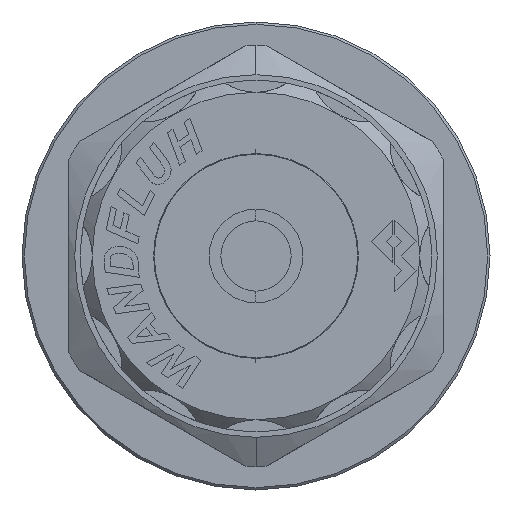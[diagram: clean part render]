
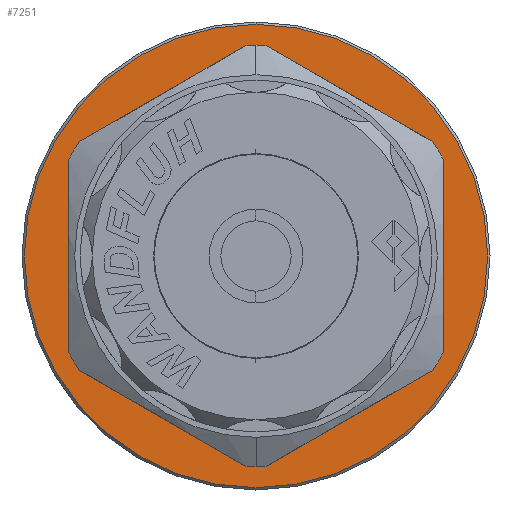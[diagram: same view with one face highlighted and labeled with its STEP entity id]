
A CAD part, left-side view. The second image highlights one B-rep face of the part: STEP entity #7251.
In plain terms, the highlighted planar face has unit normal (-1, 0, 0).
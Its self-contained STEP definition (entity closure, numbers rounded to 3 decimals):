
#110 = VERTEX_POINT ( 'NONE', #1419 ) ;
#158 = VERTEX_POINT ( 'NONE', #1416 ) ;
#275 = VERTEX_POINT ( 'NONE', #1459 ) ;
#446 = VERTEX_POINT ( 'NONE', #31677 ) ;
#448 = VERTEX_POINT ( 'NONE', #31662 ) ;
#547 = VERTEX_POINT ( 'NONE', #30345 ) ;
#1416 = CARTESIAN_POINT ( 'NONE',  ( -61.806, 4.657, 18. ) ) ;
#1419 = CARTESIAN_POINT ( 'NONE',  ( -61.806, 3.798, 17.98 ) ) ;
#1459 = CARTESIAN_POINT ( 'NONE',  ( -61.806, 4.657, -19.8 ) ) ;
#6202 = ORIENTED_EDGE ( 'NONE', *, *, #14597, .F. ) ;
#7251 = ADVANCED_FACE ( 'NONE', ( #17704, #17689 ), #25803, .F. ) ;
#7499 = VECTOR ( 'NONE', #13694, 1000. ) ;
#7500 = CIRCLE ( 'NONE', #19600, 18. ) ;
#7522 = LINE ( 'NONE', #12397, #7600 ) ;
#7552 = LINE ( 'NONE', #12812, #7556 ) ;
#7556 = VECTOR ( 'NONE', #12756, 1000. ) ;
#7570 = EDGE_CURVE ( 'NONE', #275, #547, #14774, .T. ) ;
#7578 = EDGE_CURVE ( 'NONE', #20245, #110, #14698, .T. ) ;
#7600 = VECTOR ( 'NONE', #13363, 1000. ) ;
#7608 = EDGE_CURVE ( 'NONE', #110, #158, #14743, .T. ) ;
#7632 = LINE ( 'NONE', #12357, #7499 ) ;
#9785 = VERTEX_POINT ( 'NONE', #17023 ) ;
#9932 = VERTEX_POINT ( 'NONE', #16973 ) ;
#9938 = VERTEX_POINT ( 'NONE', #16972 ) ;
#9974 = VERTEX_POINT ( 'NONE', #16979 ) ;
#10071 = VERTEX_POINT ( 'NONE', #16934 ) ;
#10116 = VERTEX_POINT ( 'NONE', #16938 ) ;
#10121 = VERTEX_POINT ( 'NONE', #16926 ) ;
#10200 = EDGE_CURVE ( 'NONE', #9974, #10116, #22279, .T. ) ;
#10203 = EDGE_CURVE ( 'NONE', #448, #446, #22203, .T. ) ;
#10222 = EDGE_CURVE ( 'NONE', #10071, #9974, #22178, .T. ) ;
#11580 = CARTESIAN_POINT ( 'NONE',  ( -61.806, 4.657, 0. ) ) ;
#11946 = DIRECTION ( 'NONE',  ( -1., 0., 0. ) ) ;
#12022 = DIRECTION ( 'NONE',  ( 0., 0., 1. ) ) ;
#12357 = CARTESIAN_POINT ( 'NONE',  ( -61.806, 4.657, 18.475 ) ) ;
#12397 = CARTESIAN_POINT ( 'NONE',  ( -61.806, 20.657, -9.238 ) ) ;
#12586 = DIRECTION ( 'NONE',  ( 0., 0., 1. ) ) ;
#12588 = DIRECTION ( 'NONE',  ( -1., 0., 0. ) ) ;
#12590 = CARTESIAN_POINT ( 'NONE',  ( -61.806, 4.657, 0. ) ) ;
#12662 = CARTESIAN_POINT ( 'NONE',  ( -61.806, 4.657, 0. ) ) ;
#12756 = DIRECTION ( 'NONE',  ( 0., 0., 1. ) ) ;
#12812 = CARTESIAN_POINT ( 'NONE',  ( -61.806, -11.343, -9.238 ) ) ;
#13363 = DIRECTION ( 'NONE',  ( 0., -0.866, -0.5 ) ) ;
#13374 = DIRECTION ( 'NONE',  ( 0., 0., 1. ) ) ;
#13596 = DIRECTION ( 'NONE',  ( -1., 0., 0. ) ) ;
#13694 = DIRECTION ( 'NONE',  ( 0., 0.866, -0.5 ) ) ;
#14471 = EDGE_CURVE ( 'NONE', #20238, #20245, #22229, .T. ) ;
#14597 = EDGE_CURVE ( 'NONE', #10121, #448, #20742, .T. ) ;
#14623 = EDGE_CURVE ( 'NONE', #547, #275, #21085, .T. ) ;
#14698 = LINE ( 'NONE', #23055, #14768 ) ;
#14743 = CIRCLE ( 'NONE', #20114, 18. ) ;
#14768 = VECTOR ( 'NONE', #23082, 1000. ) ;
#14774 = CIRCLE ( 'NONE', #20279, 19.8 ) ;
#15083 = CARTESIAN_POINT ( 'NONE',  ( -61.806, -10.485, 9.733 ) ) ;
#15252 = CARTESIAN_POINT ( 'NONE',  ( -61.806, -11.343, 8.246 ) ) ;
#15664 = DIRECTION ( 'NONE',  ( 0., 0., -1. ) ) ;
#15668 = DIRECTION ( 'NONE',  ( -1., 0., 0. ) ) ;
#15671 = CARTESIAN_POINT ( 'NONE',  ( -61.806, 4.657, 0. ) ) ;
#15789 = DIRECTION ( 'NONE',  ( 0., -0.866, 0.5 ) ) ;
#15875 = DIRECTION ( 'NONE',  ( 0., 0., 1. ) ) ;
#15878 = DIRECTION ( 'NONE',  ( -1., 0., 0. ) ) ;
#15882 = CARTESIAN_POINT ( 'NONE',  ( -61.806, 4.657, 0. ) ) ;
#15961 = CARTESIAN_POINT ( 'NONE',  ( -61.806, 4.657, -18.475 ) ) ;
#16582 = CARTESIAN_POINT ( 'NONE',  ( -61.806, 20.657, 9.238 ) ) ;
#16615 = DIRECTION ( 'NONE',  ( 0., 0., -1. ) ) ;
#16792 = DIRECTION ( 'NONE',  ( 0., 0., 1. ) ) ;
#16794 = DIRECTION ( 'NONE',  ( -1., 0., 0. ) ) ;
#16796 = CARTESIAN_POINT ( 'NONE',  ( -61.806, 4.657, 0. ) ) ;
#16809 = DIRECTION ( 'NONE',  ( 0., 0., 1. ) ) ;
#16810 = DIRECTION ( 'NONE',  ( -1., 0., 0. ) ) ;
#16812 = CARTESIAN_POINT ( 'NONE',  ( -61.806, 4.657, 0. ) ) ;
#16926 = CARTESIAN_POINT ( 'NONE',  ( -61.806, 3.798, -17.98 ) ) ;
#16934 = CARTESIAN_POINT ( 'NONE',  ( -61.806, 20.657, 8.246 ) ) ;
#16938 = CARTESIAN_POINT ( 'NONE',  ( -61.806, 19.798, -9.733 ) ) ;
#16972 = CARTESIAN_POINT ( 'NONE',  ( -61.806, 5.515, 17.98 ) ) ;
#16973 = CARTESIAN_POINT ( 'NONE',  ( -61.806, 5.515, -17.98 ) ) ;
#16979 = CARTESIAN_POINT ( 'NONE',  ( -61.806, 20.657, -8.246 ) ) ;
#17023 = CARTESIAN_POINT ( 'NONE',  ( -61.806, 19.798, 9.733 ) ) ;
#17689 = FACE_BOUND ( 'NONE', #34973, .T. ) ;
#17704 = FACE_OUTER_BOUND ( 'NONE', #34970, .T. ) ;
#19600 = AXIS2_PLACEMENT_3D ( 'NONE', #12662, #13596, #13374 ) ;
#19642 = AXIS2_PLACEMENT_3D ( 'NONE', #15671, #15668, #15664 ) ;
#19715 = AXIS2_PLACEMENT_3D ( 'NONE', #15882, #15878, #15875 ) ;
#19742 = AXIS2_PLACEMENT_3D ( 'NONE', #16796, #16794, #16792 ) ;
#19744 = AXIS2_PLACEMENT_3D ( 'NONE', #16812, #16810, #16809 ) ;
#20114 = AXIS2_PLACEMENT_3D ( 'NONE', #22923, #22921, #22920 ) ;
#20134 = AXIS2_PLACEMENT_3D ( 'NONE', #11580, #11946, #12022 ) ;
#20161 = AXIS2_PLACEMENT_3D ( 'NONE', #12590, #12588, #12586 ) ;
#20238 = VERTEX_POINT ( 'NONE', #15252 ) ;
#20245 = VERTEX_POINT ( 'NONE', #15083 ) ;
#20279 = AXIS2_PLACEMENT_3D ( 'NONE', #23085, #23084, #23083 ) ;
#20593 = ORIENTED_EDGE ( 'NONE', *, *, #7608, .F. ) ;
#20615 = ORIENTED_EDGE ( 'NONE', *, *, #24803, .F. ) ;
#20742 = LINE ( 'NONE', #15961, #20797 ) ;
#20797 = VECTOR ( 'NONE', #15789, 1000. ) ;
#21085 = CIRCLE ( 'NONE', #19642, 19.8 ) ;
#21108 = ORIENTED_EDGE ( 'NONE', *, *, #7578, .F. ) ;
#21307 = ORIENTED_EDGE ( 'NONE', *, *, #10200, .F. ) ;
#21326 = ORIENTED_EDGE ( 'NONE', *, *, #14471, .F. ) ;
#21344 = ORIENTED_EDGE ( 'NONE', *, *, #10203, .F. ) ;
#21374 = ORIENTED_EDGE ( 'NONE', *, *, #24768, .F. ) ;
#21444 = ORIENTED_EDGE ( 'NONE', *, *, #10222, .F. ) ;
#21449 = ORIENTED_EDGE ( 'NONE', *, *, #25021, .F. ) ;
#21468 = ORIENTED_EDGE ( 'NONE', *, *, #24807, .F. ) ;
#21470 = ORIENTED_EDGE ( 'NONE', *, *, #14623, .T. ) ;
#21551 = AXIS2_PLACEMENT_3D ( 'NONE', #25391, #25393, #25704 ) ;
#21560 = ORIENTED_EDGE ( 'NONE', *, *, #25088, .F. ) ;
#21731 = ORIENTED_EDGE ( 'NONE', *, *, #24774, .F. ) ;
#22178 = LINE ( 'NONE', #16582, #22354 ) ;
#22203 = CIRCLE ( 'NONE', #19742, 18. ) ;
#22229 = CIRCLE ( 'NONE', #19715, 18. ) ;
#22279 = CIRCLE ( 'NONE', #19744, 18. ) ;
#22354 = VECTOR ( 'NONE', #16615, 1000. ) ;
#22574 = CIRCLE ( 'NONE', #20161, 18. ) ;
#22920 = DIRECTION ( 'NONE',  ( 0., 0., 1. ) ) ;
#22921 = DIRECTION ( 'NONE',  ( -1., 0., 0. ) ) ;
#22923 = CARTESIAN_POINT ( 'NONE',  ( -61.806, 4.657, 0. ) ) ;
#23055 = CARTESIAN_POINT ( 'NONE',  ( -61.806, -11.343, 9.238 ) ) ;
#23082 = DIRECTION ( 'NONE',  ( 0., 0.866, 0.5 ) ) ;
#23083 = DIRECTION ( 'NONE',  ( 0., 0., -1. ) ) ;
#23084 = DIRECTION ( 'NONE',  ( -1., 0., 0. ) ) ;
#23085 = CARTESIAN_POINT ( 'NONE',  ( -61.806, 4.657, 0. ) ) ;
#23821 = ORIENTED_EDGE ( 'NONE', *, *, #7570, .T. ) ;
#24744 = CIRCLE ( 'NONE', #20134, 18. ) ;
#24768 = EDGE_CURVE ( 'NONE', #446, #20238, #7552, .T. ) ;
#24774 = EDGE_CURVE ( 'NONE', #9938, #9785, #7632, .T. ) ;
#24803 = EDGE_CURVE ( 'NONE', #10116, #9932, #7522, .T. ) ;
#24807 = EDGE_CURVE ( 'NONE', #9932, #10121, #7500, .T. ) ;
#25021 = EDGE_CURVE ( 'NONE', #9785, #10071, #22574, .T. ) ;
#25088 = EDGE_CURVE ( 'NONE', #158, #9938, #24744, .T. ) ;
#25391 = CARTESIAN_POINT ( 'NONE',  ( -61.806, 22.657, 0. ) ) ;
#25393 = DIRECTION ( 'NONE',  ( 1., 0., 0. ) ) ;
#25704 = DIRECTION ( 'NONE',  ( 0., 0., -1. ) ) ;
#25803 = PLANE ( 'NONE',  #21551 ) ;
#30345 = CARTESIAN_POINT ( 'NONE',  ( -61.806, 4.657, 19.8 ) ) ;
#31662 = CARTESIAN_POINT ( 'NONE',  ( -61.806, -10.485, -9.733 ) ) ;
#31677 = CARTESIAN_POINT ( 'NONE',  ( -61.806, -11.343, -8.246 ) ) ;
#34970 = EDGE_LOOP ( 'NONE', ( #23821, #21470 ) ) ;
#34973 = EDGE_LOOP ( 'NONE', ( #21468, #20615, #21307, #21444, #21449, #21731, #21560, #20593, #21108, #21326, #21374, #21344, #6202 ) ) ;
